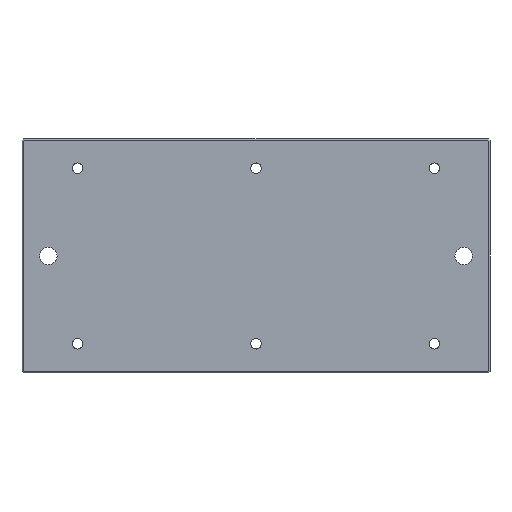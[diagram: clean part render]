
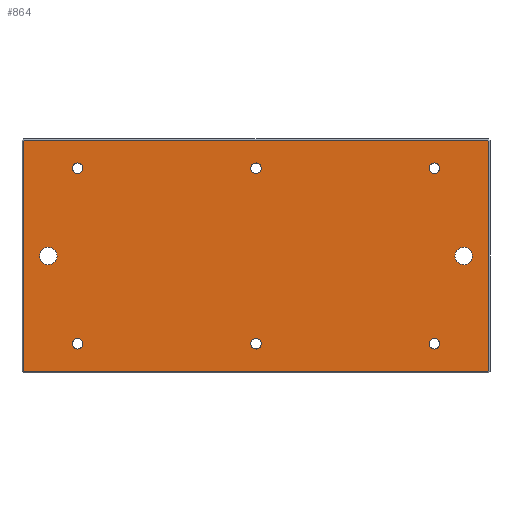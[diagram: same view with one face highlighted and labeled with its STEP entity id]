
A CAD part, front view. The second image highlights one B-rep face of the part: STEP entity #864.
In plain terms, the highlighted planar face has unit normal (0, -1, 0).
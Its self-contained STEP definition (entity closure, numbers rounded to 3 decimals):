
#1=CARTESIAN_POINT('',(-305.,-25.,-150.));
#2=DIRECTION('',(0.,1.,0.));
#3=DIRECTION('',(1.,0.,0.));
#4=AXIS2_PLACEMENT_3D('',#1,#2,#3);
#6=CARTESIAN_POINT('',(-305.,-25.,-150.));
#7=DIRECTION('',(0.,1.,0.));
#8=DIRECTION('',(-1.,0.,0.));
#9=AXIS2_PLACEMENT_3D('',#6,#7,#8);
#11=CARTESIAN_POINT('',(0.,-25.,-150.));
#12=DIRECTION('',(0.,1.,0.));
#13=DIRECTION('',(1.,0.,0.));
#14=AXIS2_PLACEMENT_3D('',#11,#12,#13);
#16=CARTESIAN_POINT('',(0.,-25.,-150.));
#17=DIRECTION('',(0.,1.,0.));
#18=DIRECTION('',(-1.,0.,0.));
#19=AXIS2_PLACEMENT_3D('',#16,#17,#18);
#21=CARTESIAN_POINT('',(305.,-25.,-150.));
#22=DIRECTION('',(0.,1.,0.));
#23=DIRECTION('',(1.,0.,0.));
#24=AXIS2_PLACEMENT_3D('',#21,#22,#23);
#26=CARTESIAN_POINT('',(305.,-25.,-150.));
#27=DIRECTION('',(0.,1.,0.));
#28=DIRECTION('',(-1.,0.,0.));
#29=AXIS2_PLACEMENT_3D('',#26,#27,#28);
#31=CARTESIAN_POINT('',(-305.,-25.,150.));
#32=DIRECTION('',(0.,-1.,0.));
#33=DIRECTION('',(1.,0.,0.));
#34=AXIS2_PLACEMENT_3D('',#31,#32,#33);
#36=CARTESIAN_POINT('',(-305.,-25.,150.));
#37=DIRECTION('',(0.,-1.,0.));
#38=DIRECTION('',(-1.,0.,0.));
#39=AXIS2_PLACEMENT_3D('',#36,#37,#38);
#41=CARTESIAN_POINT('',(0.,-25.,150.));
#42=DIRECTION('',(0.,-1.,0.));
#43=DIRECTION('',(1.,0.,0.));
#44=AXIS2_PLACEMENT_3D('',#41,#42,#43);
#46=CARTESIAN_POINT('',(0.,-25.,150.));
#47=DIRECTION('',(0.,-1.,0.));
#48=DIRECTION('',(-1.,0.,0.));
#49=AXIS2_PLACEMENT_3D('',#46,#47,#48);
#51=CARTESIAN_POINT('',(305.,-25.,150.));
#52=DIRECTION('',(0.,-1.,0.));
#53=DIRECTION('',(1.,0.,0.));
#54=AXIS2_PLACEMENT_3D('',#51,#52,#53);
#56=CARTESIAN_POINT('',(305.,-25.,150.));
#57=DIRECTION('',(0.,-1.,0.));
#58=DIRECTION('',(-1.,0.,0.));
#59=AXIS2_PLACEMENT_3D('',#56,#57,#58);
#61=CARTESIAN_POINT('',(-355.,-25.,0.));
#62=DIRECTION('',(0.,-1.,0.));
#63=DIRECTION('',(1.,0.,0.));
#64=AXIS2_PLACEMENT_3D('',#61,#62,#63);
#66=CARTESIAN_POINT('',(-355.,-25.,0.));
#67=DIRECTION('',(0.,-1.,0.));
#68=DIRECTION('',(-1.,0.,0.));
#69=AXIS2_PLACEMENT_3D('',#66,#67,#68);
#71=CARTESIAN_POINT('',(355.,-25.,0.));
#72=DIRECTION('',(0.,1.,0.));
#73=DIRECTION('',(-1.,0.,0.));
#74=AXIS2_PLACEMENT_3D('',#71,#72,#73);
#76=CARTESIAN_POINT('',(355.,-25.,0.));
#77=DIRECTION('',(0.,1.,0.));
#78=DIRECTION('',(1.,0.,0.));
#79=AXIS2_PLACEMENT_3D('',#76,#77,#78);
#81=DIRECTION('',(0.707,0.,0.707));
#82=VECTOR('',#81,2.586);
#83=CARTESIAN_POINT('',(396.172,-25.,-198.));
#84=LINE('',#83,#82);
#85=DIRECTION('',(1.,0.,0.));
#86=VECTOR('',#85,792.343);
#87=CARTESIAN_POINT('',(-396.172,-25.,-198.));
#88=LINE('',#87,#86);
#89=DIRECTION('',(0.707,0.,-0.707));
#90=VECTOR('',#89,2.586);
#91=CARTESIAN_POINT('',(-398.,-25.,-196.172));
#92=LINE('',#91,#90);
#93=DIRECTION('',(0.,0.,-1.));
#94=VECTOR('',#93,392.343);
#95=CARTESIAN_POINT('',(-398.,-25.,196.172));
#96=LINE('',#95,#94);
#97=DIRECTION('',(-0.707,0.,-0.707));
#98=VECTOR('',#97,2.586);
#99=CARTESIAN_POINT('',(-396.172,-25.,198.));
#100=LINE('',#99,#98);
#101=DIRECTION('',(-1.,0.,0.));
#102=VECTOR('',#101,792.343);
#103=CARTESIAN_POINT('',(396.172,-25.,198.));
#104=LINE('',#103,#102);
#105=DIRECTION('',(-0.707,0.,0.707));
#106=VECTOR('',#105,2.586);
#107=CARTESIAN_POINT('',(398.,-25.,196.172));
#108=LINE('',#107,#106);
#109=DIRECTION('',(0.,0.,1.));
#110=VECTOR('',#109,392.343);
#111=CARTESIAN_POINT('',(398.,-25.,-196.172));
#112=LINE('',#111,#110);
#625=CARTESIAN_POINT('',(-296.,-25.,-150.));
#626=CARTESIAN_POINT('',(-314.,-25.,-150.));
#627=VERTEX_POINT('',#625);
#628=VERTEX_POINT('',#626);
#641=CARTESIAN_POINT('',(9.,-25.,-150.));
#642=CARTESIAN_POINT('',(-9.,-25.,-150.));
#643=VERTEX_POINT('',#641);
#644=VERTEX_POINT('',#642);
#657=CARTESIAN_POINT('',(314.,-25.,-150.));
#658=CARTESIAN_POINT('',(296.,-25.,-150.));
#659=VERTEX_POINT('',#657);
#660=VERTEX_POINT('',#658);
#673=CARTESIAN_POINT('',(-296.,-25.,150.));
#674=VERTEX_POINT('',#673);
#677=CARTESIAN_POINT('',(-314.,-25.,150.));
#678=VERTEX_POINT('',#677);
#689=CARTESIAN_POINT('',(9.,-25.,150.));
#690=VERTEX_POINT('',#689);
#693=CARTESIAN_POINT('',(-9.,-25.,150.));
#694=VERTEX_POINT('',#693);
#705=CARTESIAN_POINT('',(314.,-25.,150.));
#706=VERTEX_POINT('',#705);
#709=CARTESIAN_POINT('',(296.,-25.,150.));
#710=VERTEX_POINT('',#709);
#713=CARTESIAN_POINT('',(-340.,-25.,0.));
#714=CARTESIAN_POINT('',(-370.,-25.,0.));
#715=VERTEX_POINT('',#713);
#716=VERTEX_POINT('',#714);
#722=CARTESIAN_POINT('',(340.,-25.,0.));
#724=VERTEX_POINT('',#722);
#726=CARTESIAN_POINT('',(370.,-25.,0.));
#728=VERTEX_POINT('',#726);
#729=CARTESIAN_POINT('',(396.172,-25.,-198.));
#730=CARTESIAN_POINT('',(398.,-25.,-196.172));
#731=VERTEX_POINT('',#729);
#732=VERTEX_POINT('',#730);
#739=CARTESIAN_POINT('',(398.,-25.,196.172));
#740=VERTEX_POINT('',#739);
#741=CARTESIAN_POINT('',(396.172,-25.,198.));
#742=VERTEX_POINT('',#741);
#747=CARTESIAN_POINT('',(-396.172,-25.,198.));
#748=VERTEX_POINT('',#747);
#751=CARTESIAN_POINT('',(-398.,-25.,196.172));
#752=VERTEX_POINT('',#751);
#755=CARTESIAN_POINT('',(-398.,-25.,-196.172));
#756=VERTEX_POINT('',#755);
#757=CARTESIAN_POINT('',(-396.172,-25.,-198.));
#758=VERTEX_POINT('',#757);
#793=CARTESIAN_POINT('',(0.,-25.,0.));
#794=DIRECTION('',(0.,1.,0.));
#795=DIRECTION('',(1.,0.,0.));
#796=AXIS2_PLACEMENT_3D('',#793,#794,#795);
#797=PLANE('',#796);
#799=ORIENTED_EDGE('',*,*,#798,.F.);
#801=ORIENTED_EDGE('',*,*,#800,.F.);
#803=ORIENTED_EDGE('',*,*,#802,.F.);
#805=ORIENTED_EDGE('',*,*,#804,.F.);
#807=ORIENTED_EDGE('',*,*,#806,.F.);
#809=ORIENTED_EDGE('',*,*,#808,.F.);
#811=ORIENTED_EDGE('',*,*,#810,.F.);
#813=ORIENTED_EDGE('',*,*,#812,.F.);
#814=EDGE_LOOP('',(#799,#801,#803,#805,#807,#809,#811,#813));
#815=FACE_OUTER_BOUND('',#814,.F.);
#817=ORIENTED_EDGE('',*,*,#816,.F.);
#819=ORIENTED_EDGE('',*,*,#818,.F.);
#820=EDGE_LOOP('',(#817,#819));
#821=FACE_BOUND('',#820,.F.);
#823=ORIENTED_EDGE('',*,*,#822,.F.);
#825=ORIENTED_EDGE('',*,*,#824,.F.);
#826=EDGE_LOOP('',(#823,#825));
#827=FACE_BOUND('',#826,.F.);
#829=ORIENTED_EDGE('',*,*,#828,.T.);
#831=ORIENTED_EDGE('',*,*,#830,.T.);
#832=EDGE_LOOP('',(#829,#831));
#833=FACE_BOUND('',#832,.F.);
#835=ORIENTED_EDGE('',*,*,#834,.T.);
#837=ORIENTED_EDGE('',*,*,#836,.T.);
#838=EDGE_LOOP('',(#835,#837));
#839=FACE_BOUND('',#838,.F.);
#841=ORIENTED_EDGE('',*,*,#840,.T.);
#843=ORIENTED_EDGE('',*,*,#842,.T.);
#844=EDGE_LOOP('',(#841,#843));
#845=FACE_BOUND('',#844,.F.);
#847=ORIENTED_EDGE('',*,*,#846,.T.);
#849=ORIENTED_EDGE('',*,*,#848,.T.);
#850=EDGE_LOOP('',(#847,#849));
#851=FACE_BOUND('',#850,.F.);
#853=ORIENTED_EDGE('',*,*,#852,.F.);
#855=ORIENTED_EDGE('',*,*,#854,.F.);
#856=EDGE_LOOP('',(#853,#855));
#857=FACE_BOUND('',#856,.F.);
#859=ORIENTED_EDGE('',*,*,#858,.F.);
#861=ORIENTED_EDGE('',*,*,#860,.F.);
#862=EDGE_LOOP('',(#859,#861));
#863=FACE_BOUND('',#862,.F.);
#864=ADVANCED_FACE('',(#815,#821,#827,#833,#839,#845,#851,#857,#863),#797,.F.);
#5=CIRCLE('',#4,9.);
#10=CIRCLE('',#9,9.);
#15=CIRCLE('',#14,9.);
#20=CIRCLE('',#19,9.);
#25=CIRCLE('',#24,9.);
#30=CIRCLE('',#29,9.);
#35=CIRCLE('',#34,9.);
#40=CIRCLE('',#39,9.);
#45=CIRCLE('',#44,9.);
#50=CIRCLE('',#49,9.);
#55=CIRCLE('',#54,9.);
#60=CIRCLE('',#59,9.);
#65=CIRCLE('',#64,15.);
#70=CIRCLE('',#69,15.);
#75=CIRCLE('',#74,15.);
#80=CIRCLE('',#79,15.);
#798=EDGE_CURVE('',#731,#732,#84,.T.);
#800=EDGE_CURVE('',#758,#731,#88,.T.);
#802=EDGE_CURVE('',#756,#758,#92,.T.);
#804=EDGE_CURVE('',#752,#756,#96,.T.);
#806=EDGE_CURVE('',#748,#752,#100,.T.);
#808=EDGE_CURVE('',#742,#748,#104,.T.);
#810=EDGE_CURVE('',#740,#742,#108,.T.);
#812=EDGE_CURVE('',#732,#740,#112,.T.);
#816=EDGE_CURVE('',#643,#644,#15,.T.);
#818=EDGE_CURVE('',#644,#643,#20,.T.);
#822=EDGE_CURVE('',#659,#660,#25,.T.);
#824=EDGE_CURVE('',#660,#659,#30,.T.);
#828=EDGE_CURVE('',#674,#678,#35,.T.);
#830=EDGE_CURVE('',#678,#674,#40,.T.);
#834=EDGE_CURVE('',#690,#694,#45,.T.);
#836=EDGE_CURVE('',#694,#690,#50,.T.);
#840=EDGE_CURVE('',#706,#710,#55,.T.);
#842=EDGE_CURVE('',#710,#706,#60,.T.);
#846=EDGE_CURVE('',#715,#716,#65,.T.);
#848=EDGE_CURVE('',#716,#715,#70,.T.);
#852=EDGE_CURVE('',#724,#728,#75,.T.);
#854=EDGE_CURVE('',#728,#724,#80,.T.);
#858=EDGE_CURVE('',#627,#628,#5,.T.);
#860=EDGE_CURVE('',#628,#627,#10,.T.);
